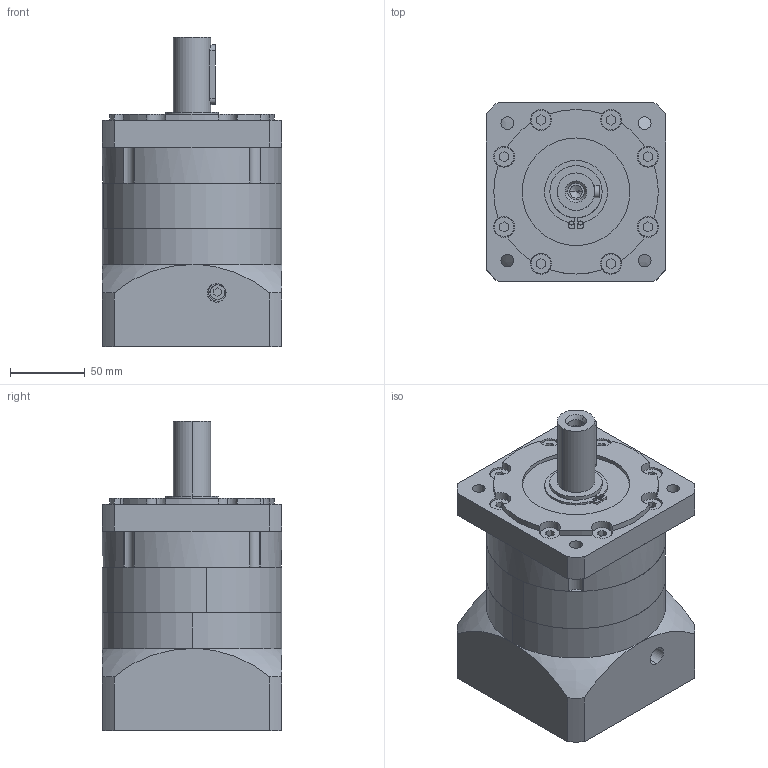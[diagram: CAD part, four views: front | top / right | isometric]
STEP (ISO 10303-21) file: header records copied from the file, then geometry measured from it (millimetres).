
FILE_DESCRIPTION (( 'STEP AP203' ), '1' );
FILE_NAME ('PRF120-L1 LR62.5.STEP', '2021-05-16T02:15:00', ( '微软用户' ), ( '微软中国' ), 'SwSTEP 2.0', 'SolidWorks 2014', '' );
FILE_SCHEMA (( 'CONFIG_CONTROL_DESIGN' ));
Length unit declared in the file: millimetre
Products named in the file (8): 邧埴瑩 8x7x40; 囀鞠褒蹟佪 M6x20; PRF120 奻屳唳; PRF120 蟀諉啣-LR62.5; PRF120 κｳﾝﾈｦ-ﾓﾅｻｯ_ﾒｻｼｶﾄﾚｳﾝﾈｦ; PRF120 狟屳唳; PRF120-L1 LR62.5; 粣創-6007 40x68x15
Assembly tree (7 placements, depth 2):
  PRF120-L1 LR62.5
    囀鞠褒蹟佪 M6x20
    PRF120 蟀諉啣-LR62.5
    PRF120 κｳﾝﾈｦ-ﾓﾅｻｯ_ﾒｻｼｶﾄﾚｳﾝﾈｦ
    PRF120 奻屳唳
    PRF120 狟屳唳
    粣創-6007 40x68x15
    邧埴瑩 8x7x40
Bounding box: 120 x 120 x 207 mm (x, y, z)
Volume: 1719682.2 mm3; surface area: 236976 mm2
Topology: 7 solids, 15 shells, 571 faces, 1524 edges, 999 vertices
Faces by surface type: cylinder 206, plane 203, sphere 96, torus 52, cone 14
Entity records: 22547 total; most frequent: CARTESIAN_POINT 7334, DIRECTION 3048, ORIENTED_EDGE 3028, EDGE_CURVE 1514, AXIS2_PLACEMENT_3D 1284, VERTEX_POINT 999, CIRCLE 703, EDGE_LOOP 673
